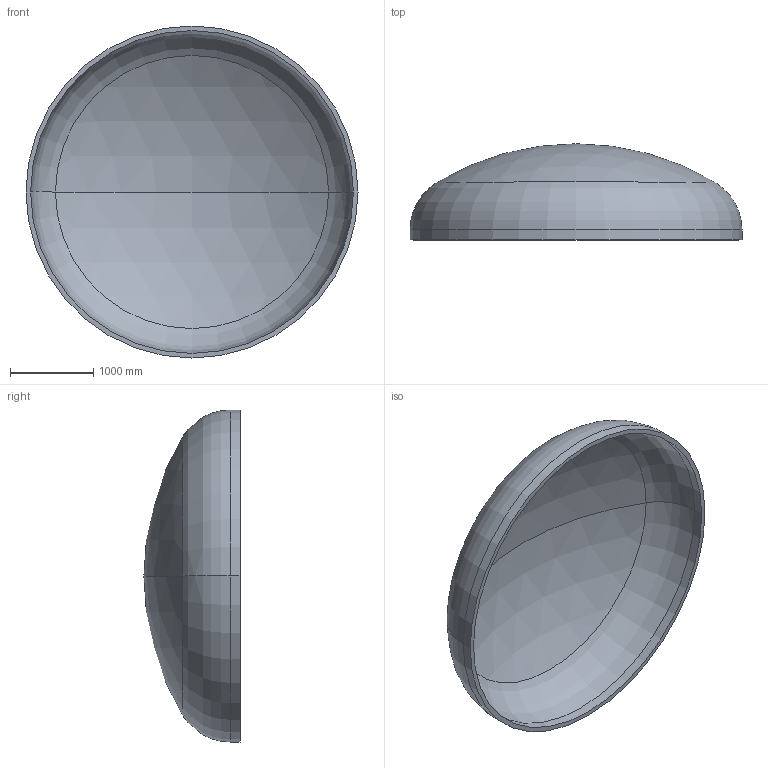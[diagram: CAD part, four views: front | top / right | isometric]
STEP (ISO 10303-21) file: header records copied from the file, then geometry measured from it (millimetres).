
FILE_DESCRIPTION (( 'STEP AP203' ), '1' );
FILE_NAME ('DIN 28013 Korbbogenform_-_Boden DIN 28013 - 4000 x 120 - I - s=56.step', '2016-07-01T22:32:08', ( '' ), ( '' ), 'SwSTEP 2.0', 'SolidWorks 2013', '' );
FILE_SCHEMA (( 'CONFIG_CONTROL_DESIGN' ));
Length unit declared in the file: millimetre
Products named in the file (1): DIN 28013 Korbbogenform_-_Boden DIN 28013 - 4000 x 120 - I - s=56
Bounding box: 4000 x 1158.8 x 4000 mm (x, y, z)
Volume: 1039732900.5 mm3; surface area: 37833737.2 mm2
Topology: 1 solids, 1 shells, 13 faces, 24 edges, 14 vertices
Faces by surface type: torus 4, cylinder 4, sphere 4, plane 1
Entity records: 407 total; most frequent: DIRECTION 72, CARTESIAN_POINT 52, ORIENTED_EDGE 48, AXIS2_PLACEMENT_3D 34, EDGE_CURVE 24, CIRCLE 20, EDGE_LOOP 14, VERTEX_POINT 14
